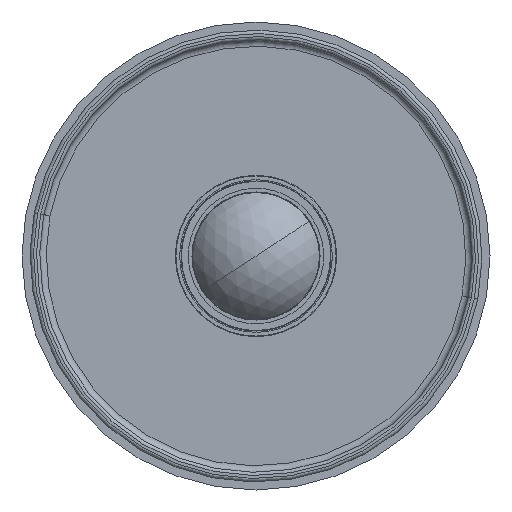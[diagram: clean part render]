
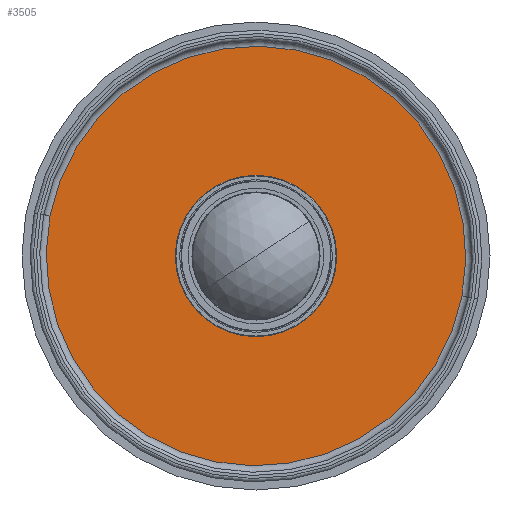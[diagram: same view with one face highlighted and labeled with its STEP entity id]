
A CAD part, front view. The second image highlights one B-rep face of the part: STEP entity #3505.
In plain terms, the highlighted planar face has unit normal (0, -1, 0).
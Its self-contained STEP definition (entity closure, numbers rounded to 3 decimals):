
#113 = DIRECTION ( 'NONE',  ( 1., 0., 0. ) ) ;
#579 = ORIENTED_EDGE ( 'NONE', *, *, #6150, .T. ) ;
#694 = CARTESIAN_POINT ( 'NONE',  ( -65., 62.762, 0. ) ) ;
#705 = CARTESIAN_POINT ( 'NONE',  ( 65., 62.762, 0. ) ) ;
#777 = EDGE_CURVE ( 'NONE', #5014, #1494, #6360, .T. ) ;
#1370 = FACE_BOUND ( 'NONE', #7819, .T. ) ;
#1494 = VERTEX_POINT ( 'NONE', #2101 ) ;
#1757 = EDGE_CURVE ( 'NONE', #2322, #4494, #5001, .T. ) ;
#2038 = FACE_OUTER_BOUND ( 'NONE', #5432, .T. ) ;
#2101 = CARTESIAN_POINT ( 'NONE',  ( -65., 62.762, 0. ) ) ;
#2322 = VERTEX_POINT ( 'NONE', #5513 ) ;
#2700 = DIRECTION ( 'NONE',  ( 0., -1., 0. ) ) ;
#2775 = DIRECTION ( 'NONE',  ( -1., 0., 0. ) ) ;
#2825 = ORIENTED_EDGE ( 'NONE', *, *, #1757, .F. ) ;
#3173 = CARTESIAN_POINT ( 'NONE',  ( -20., 62.762, 0. ) ) ;
#3445 = CARTESIAN_POINT ( 'NONE',  ( 0., 62.762, 0. ) ) ;
#3505 = ADVANCED_FACE ( 'NONE', ( #1370, #2038 ), #7102, .F. ) ;
#3541 = ORIENTED_EDGE ( 'NONE', *, *, #777, .T. ) ;
#4063 = AXIS2_PLACEMENT_3D ( 'NONE', #694, #6474, #2775 ) ;
#4334 = ORIENTED_EDGE ( 'NONE', *, *, #4921, .F. ) ;
#4494 = VERTEX_POINT ( 'NONE', #3173 ) ;
#4640 = CARTESIAN_POINT ( 'NONE',  ( 0., 62.762, 0. ) ) ;
#4831 = DIRECTION ( 'NONE',  ( 0., -1., 0. ) ) ;
#4921 = EDGE_CURVE ( 'NONE', #4494, #2322, #4975, .T. ) ;
#4975 = CIRCLE ( 'NONE', #5652, 20. ) ;
#5001 = CIRCLE ( 'NONE', #8216, 20. ) ;
#5014 = VERTEX_POINT ( 'NONE', #705 ) ;
#5224 = DIRECTION ( 'NONE',  ( 1., 0., 0. ) ) ;
#5432 = EDGE_LOOP ( 'NONE', ( #3541, #579 ) ) ;
#5513 = CARTESIAN_POINT ( 'NONE',  ( 20., 62.762, 0. ) ) ;
#5652 = AXIS2_PLACEMENT_3D ( 'NONE', #4640, #7736, #113 ) ;
#5799 = AXIS2_PLACEMENT_3D ( 'NONE', #7200, #2700, #5224 ) ;
#6150 = EDGE_CURVE ( 'NONE', #1494, #5014, #7261, .T. ) ;
#6360 = CIRCLE ( 'NONE', #7296, 65. ) ;
#6474 = DIRECTION ( 'NONE',  ( 0., 1., 0. ) ) ;
#7102 = PLANE ( 'NONE',  #4063 ) ;
#7200 = CARTESIAN_POINT ( 'NONE',  ( 0., 62.762, 0. ) ) ;
#7258 = DIRECTION ( 'NONE',  ( 1., 0., 0. ) ) ;
#7261 = CIRCLE ( 'NONE', #5799, 65. ) ;
#7296 = AXIS2_PLACEMENT_3D ( 'NONE', #3445, #4831, #7258 ) ;
#7322 = DIRECTION ( 'NONE',  ( 0., -1., 0. ) ) ;
#7736 = DIRECTION ( 'NONE',  ( 0., -1., 0. ) ) ;
#7819 = EDGE_LOOP ( 'NONE', ( #2825, #4334 ) ) ;
#7905 = DIRECTION ( 'NONE',  ( 1., 0., 0. ) ) ;
#7996 = CARTESIAN_POINT ( 'NONE',  ( 0., 62.762, 0. ) ) ;
#8216 = AXIS2_PLACEMENT_3D ( 'NONE', #7996, #7322, #7905 ) ;
